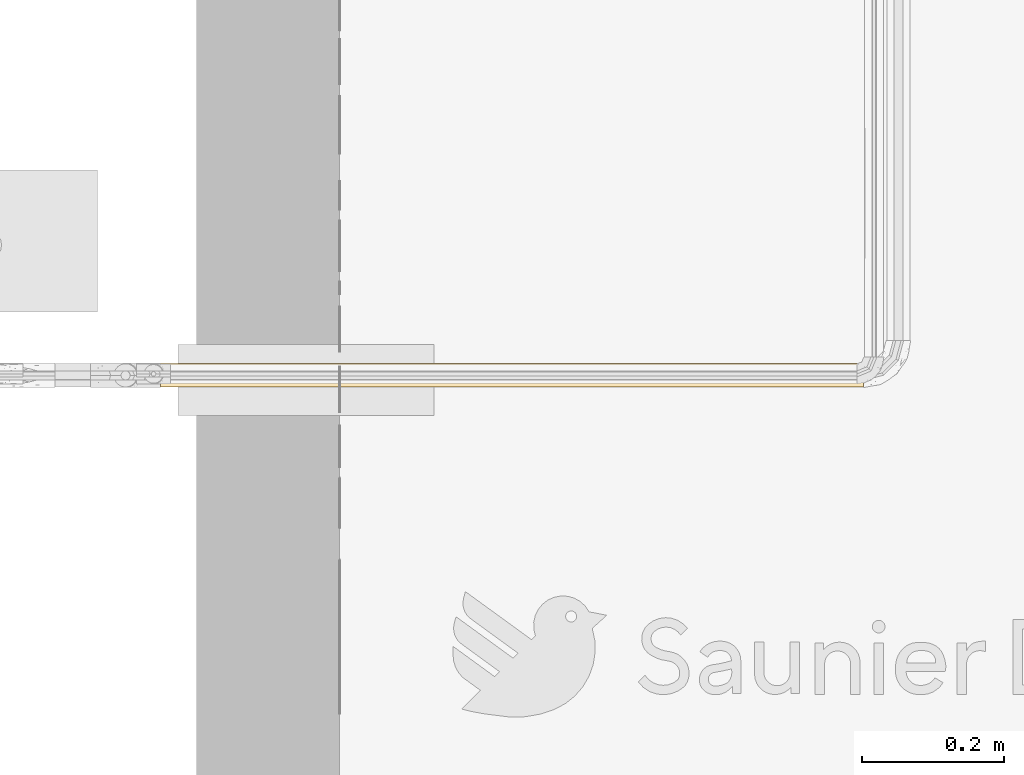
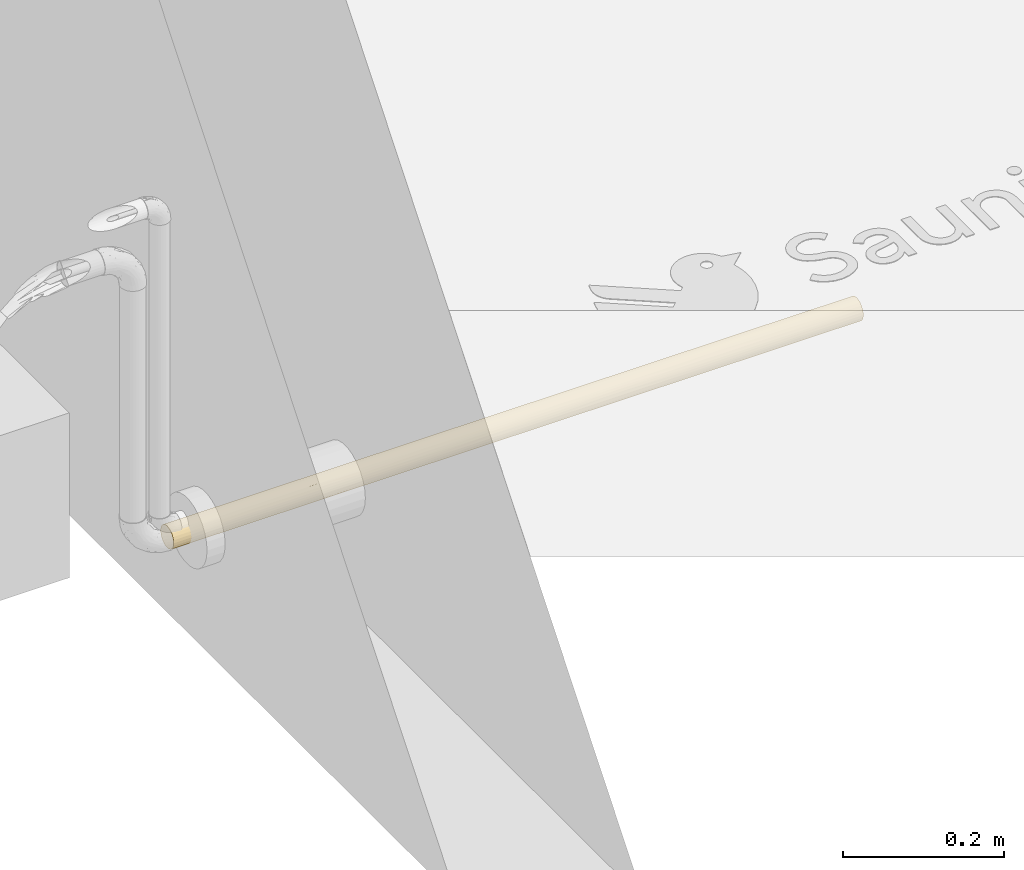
# One storey, part 7 of 30: 1 covering.
"""IFC2X3 building model written with IfcOpenShell, lengths in metres."""

from ifc_helpers import new_model, entity, si_unit, converted_unit, derived_unit, direction, frame, origin, place, context, subcontext, project, spatial, faceted_brep, material, type_object, element, save


model = new_model("IFC2X3")

# Units and contexts
model_context = context("Model", 3, precision=1e-05, world=origin(), true_north=direction((6.123031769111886e-17, 1.0)))
body_context = subcontext(model_context, "Body", "Model", "MODEL_VIEW")
ifc_project = project(units=[si_unit("LENGTHUNIT", "METRE"), si_unit("AREAUNIT", "SQUARE_METRE"), si_unit("VOLUMEUNIT", "CUBIC_METRE"), converted_unit("PLANEANGLEUNIT", "DEGREE", entity("IfcPlaneAngleMeasure", 0.017453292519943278), si_unit("PLANEANGLEUNIT", "RADIAN"), dimensions=[0, 0, 0, 0, 0, 0, 0]), si_unit("MASSUNIT", "GRAM", prefix="KILO"), derived_unit("MASSDENSITYUNIT", [(si_unit("MASSUNIT", "GRAM", prefix="KILO"), 1), (si_unit("LENGTHUNIT", "METRE"), -3)]), derived_unit("IONCONCENTRATIONUNIT", [(si_unit("MASSUNIT", "GRAM", prefix="KILO"), 1), (si_unit("LENGTHUNIT", "METRE"), -3)]), derived_unit("MOMENTOFINERTIAUNIT", [(si_unit("LENGTHUNIT", "METRE"), 4)]), si_unit("TIMEUNIT", "SECOND"), si_unit("FREQUENCYUNIT", "HERTZ"), si_unit("THERMODYNAMICTEMPERATUREUNIT", "DEGREE_CELSIUS"), derived_unit("THERMALTRANSMITTANCEUNIT", [(si_unit("MASSUNIT", "GRAM", prefix="KILO"), 1), (si_unit("THERMODYNAMICTEMPERATUREUNIT", "KELVIN"), -1), (si_unit("TIMEUNIT", "SECOND"), -3)]), derived_unit("THERMALCONDUCTANCEUNIT", [(si_unit("MASSUNIT", "GRAM", prefix="KILO"), 1), (si_unit("THERMODYNAMICTEMPERATUREUNIT", "KELVIN"), -1), (si_unit("TIMEUNIT", "SECOND"), -3), (si_unit("LENGTHUNIT", "METRE"), 1)]), derived_unit("VOLUMETRICFLOWRATEUNIT", [(si_unit("LENGTHUNIT", "METRE", prefix="DECI"), 3), (si_unit("TIMEUNIT", "SECOND"), -1)]), derived_unit("MASSFLOWRATEUNIT", [(si_unit("MASSUNIT", "GRAM", prefix="KILO"), 1), (si_unit("TIMEUNIT", "SECOND"), -1)]), derived_unit("ROTATIONALFREQUENCYUNIT", [(si_unit("TIMEUNIT", "SECOND"), -1)]), si_unit("ELECTRICCURRENTUNIT", "AMPERE"), si_unit("ELECTRICVOLTAGEUNIT", "VOLT"), si_unit("POWERUNIT", "WATT"), si_unit("FORCEUNIT", "NEWTON", prefix="KILO"), si_unit("ILLUMINANCEUNIT", "LUX"), si_unit("LUMINOUSFLUXUNIT", "LUMEN"), si_unit("LUMINOUSINTENSITYUNIT", "CANDELA"), si_unit("ENERGYUNIT", "JOULE"), derived_unit("USERDEFINED", [(si_unit("MASSUNIT", "GRAM", prefix="KILO"), -1), (si_unit("LENGTHUNIT", "METRE"), -2), (si_unit("TIMEUNIT", "SECOND"), 3), (si_unit("LUMINOUSFLUXUNIT", "LUMEN"), 1)]), derived_unit("USERDEFINED", [(si_unit("MASSUNIT", "GRAM", prefix="KILO"), 1), (si_unit("TIMEUNIT", "SECOND"), -3), (si_unit("LENGTHUNIT", "METRE"), 3), (si_unit("ELECTRICCURRENTUNIT", "AMPERE"), -2)]), derived_unit("SOUNDPOWERUNIT", [(si_unit("MASSUNIT", "GRAM", prefix="KILO"), 1), (si_unit("TIMEUNIT", "SECOND"), -3), (si_unit("LENGTHUNIT", "METRE"), 2)]), derived_unit("SOUNDPRESSUREUNIT", [(si_unit("MASSUNIT", "GRAM", prefix="KILO"), 1), (si_unit("LENGTHUNIT", "METRE"), -1), (si_unit("TIMEUNIT", "SECOND"), -2)]), derived_unit("LINEARVELOCITYUNIT", [(si_unit("LENGTHUNIT", "METRE"), 1), (si_unit("TIMEUNIT", "SECOND"), -1)]), si_unit("PRESSUREUNIT", "PASCAL"), derived_unit("USERDEFINED", [(si_unit("MASSUNIT", "GRAM", prefix="KILO"), 1), (si_unit("LENGTHUNIT", "METRE"), -2), (si_unit("TIMEUNIT", "SECOND"), -2)]), derived_unit("LINEARFORCEUNIT", [(si_unit("MASSUNIT", "GRAM", prefix="KILO"), 1), (si_unit("TIMEUNIT", "SECOND"), -2)]), derived_unit("PLANARFORCEUNIT", [(si_unit("MASSUNIT", "GRAM", prefix="KILO"), 1), (si_unit("LENGTHUNIT", "METRE"), -1), (si_unit("TIMEUNIT", "SECOND"), -2)]), derived_unit("SPECIFICHEATCAPACITYUNIT", [(si_unit("THERMODYNAMICTEMPERATUREUNIT", "KELVIN"), -1), (si_unit("LENGTHUNIT", "METRE"), 2), (si_unit("TIMEUNIT", "SECOND"), -2)]), derived_unit("HEATFLUXDENSITYUNIT", [(si_unit("MASSUNIT", "GRAM", prefix="KILO"), 1), (si_unit("TIMEUNIT", "SECOND"), -3)]), derived_unit("HEATINGVALUEUNIT", [(si_unit("LENGTHUNIT", "METRE"), 2), (si_unit("TIMEUNIT", "SECOND"), -2)]), derived_unit("VAPORPERMEABILITYUNIT", [(si_unit("LENGTHUNIT", "METRE"), -1), (si_unit("TIMEUNIT", "SECOND"), 1)]), derived_unit("DYNAMICVISCOSITYUNIT", [(si_unit("MASSUNIT", "GRAM", prefix="KILO"), 1), (si_unit("TIMEUNIT", "SECOND"), -1), (si_unit("LENGTHUNIT", "METRE"), -1)]), derived_unit("THERMALEXPANSIONCOEFFICIENTUNIT", [(si_unit("THERMODYNAMICTEMPERATUREUNIT", "KELVIN"), -1)]), derived_unit("MODULUSOFELASTICITYUNIT", [(si_unit("MASSUNIT", "GRAM", prefix="KILO"), 1), (si_unit("LENGTHUNIT", "METRE"), -1), (si_unit("TIMEUNIT", "SECOND"), -2)]), derived_unit("ISOTHERMALMOISTURECAPACITYUNIT", [(si_unit("MASSUNIT", "GRAM", prefix="KILO"), -1), (si_unit("LENGTHUNIT", "METRE"), 3)]), derived_unit("MOISTUREDIFFUSIVITYUNIT", [(si_unit("TIMEUNIT", "SECOND"), -1), (si_unit("LENGTHUNIT", "METRE"), 2)]), derived_unit("MASSPERLENGTHUNIT", [(si_unit("MASSUNIT", "GRAM", prefix="KILO"), 1), (si_unit("LENGTHUNIT", "METRE"), -1)]), derived_unit("THERMALRESISTANCEUNIT", [(si_unit("MASSUNIT", "GRAM", prefix="KILO"), -1), (si_unit("TIMEUNIT", "SECOND"), 3), (si_unit("THERMODYNAMICTEMPERATUREUNIT", "KELVIN"), 1)]), derived_unit("ACCELERATIONUNIT", [(si_unit("LENGTHUNIT", "METRE"), 1), (si_unit("TIMEUNIT", "SECOND"), -2)]), derived_unit("ANGULARVELOCITYUNIT", [(si_unit("TIMEUNIT", "SECOND"), -1), (si_unit("PLANEANGLEUNIT", "RADIAN"), 1)]), derived_unit("LINEARSTIFFNESSUNIT", [(si_unit("MASSUNIT", "GRAM", prefix="KILO"), 1), (si_unit("TIMEUNIT", "SECOND"), -2)]), derived_unit("WARPINGCONSTANTUNIT", [(si_unit("LENGTHUNIT", "METRE"), 6)]), derived_unit("LINEARMOMENTUNIT", [(si_unit("MASSUNIT", "GRAM", prefix="KILO"), 1), (si_unit("LENGTHUNIT", "METRE"), 1), (si_unit("TIMEUNIT", "SECOND"), -2)]), derived_unit("TORQUEUNIT", [(si_unit("MASSUNIT", "GRAM", prefix="KILO"), 1), (si_unit("LENGTHUNIT", "METRE"), 2), (si_unit("TIMEUNIT", "SECOND"), -2)])], contexts=[model_context])

# Site, building, storey
site_placement = place(None, origin())
site = spatial("IfcSite", under=ifc_project, at=site_placement, Name="Default", CompositionType="ELEMENT")
building_placement = place(site_placement, origin())
building = spatial("IfcBuilding", under=site, at=building_placement, CompositionType="ELEMENT")
storey_placement = place(building_placement, origin())
storey = spatial("IfcBuildingStorey", under=building, at=storey_placement, Name="Niveau 0", CompositionType="ELEMENT", Elevation=-1.949160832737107e-14)

# Covering
ifc_material = material(Name="Matériau du rendu 255-255-255")
covering_type = type_object("IfcCoveringType", Name="Isolation des canalisations:Par défaut", PredefinedType="INSULATION")
covering_placement = place(storey_placement, frame((-20.867036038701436, 1.3571078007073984, -0.4329452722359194)))
element("IfcCovering", 1, at=covering_placement, inside=storey, type_object=covering_type, material=ifc_material, Name="Isolation des canalisations:Par défaut", ObjectType="Isolation des canalisations:Par défaut", PredefinedType="INSULATION", context=body_context, shape_type="Brep", body=[
    faceted_brep([(0.0, 0.006384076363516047, 0.006384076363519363), (0.0, 0.0037857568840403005, 0.009770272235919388), (0.0, 0.00215238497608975, 0.013713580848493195), (0.0, 0.0015952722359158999, 0.01794527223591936), (0.0, 0.00215238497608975, 0.022176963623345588), (0.0, 0.0037857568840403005, 0.026120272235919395), (0.0, 0.006384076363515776, 0.02950646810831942), (0.0, 0.009770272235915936, 0.03210478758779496), (0.0, 0.013713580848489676, 0.03373815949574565), (0.0, 0.017945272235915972, 0.03429527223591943), (0.0, 0.02217696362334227, 0.03373815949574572), (0.0, 0.02612027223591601, 0.03210478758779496), (0.0, 0.02950646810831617, 0.029506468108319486), (0.0, 0.032104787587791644, 0.026120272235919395), (0.0, 0.033738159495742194, 0.022176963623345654), (0.0, 0.034295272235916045, 0.017945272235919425), (0.0, 0.033738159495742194, 0.013713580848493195), (0.0, 0.032104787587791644, 0.009770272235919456), (0.0, 0.02950646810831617, 0.006384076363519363), (0.0, 0.02612027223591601, 0.0037857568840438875), (0.0, 0.02217696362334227, 0.002152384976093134), (0.0, 0.017945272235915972, 0.0015952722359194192), (0.0, 0.013713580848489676, 0.002152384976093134), (0.0, 0.009770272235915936, 0.00378575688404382), (0.9889466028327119, 0.0021523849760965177, 0.013713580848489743), (0.9889466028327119, 0.0037857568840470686, 0.009770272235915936), (0.9889466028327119, 0.006384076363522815, 0.006384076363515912), (0.9889466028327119, 0.009770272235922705, 0.003785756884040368), (0.9889466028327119, 0.013713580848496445, 0.0021523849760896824), (0.9889466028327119, 0.01794527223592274, 0.0015952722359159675), (0.9889466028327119, 0.022176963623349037, 0.0021523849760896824), (0.9889466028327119, 0.026120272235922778, 0.003785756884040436), (0.9889466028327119, 0.02950646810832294, 0.006384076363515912), (0.9889466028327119, 0.03210478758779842, 0.009770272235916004), (0.9889466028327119, 0.033738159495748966, 0.013713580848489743), (0.9889466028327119, 0.03429527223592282, 0.017945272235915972), (0.9889466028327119, 0.033738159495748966, 0.0221769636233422), (0.9889466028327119, 0.03210478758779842, 0.026120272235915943), (0.9889466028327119, 0.02950646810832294, 0.029506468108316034), (0.9889466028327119, 0.026120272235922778, 0.03210478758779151), (0.9889466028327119, 0.022176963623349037, 0.03373815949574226), (0.9889466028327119, 0.01794527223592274, 0.034295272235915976), (0.9889466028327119, 0.013713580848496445, 0.033738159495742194), (0.9889466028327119, 0.009770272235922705, 0.03210478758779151), (0.9889466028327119, 0.0063840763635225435, 0.02950646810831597), (0.9889466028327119, 0.0037857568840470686, 0.026120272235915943), (0.9889466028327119, 0.0021523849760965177, 0.022176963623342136), (0.9889466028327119, 0.0015952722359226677, 0.017945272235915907), (0.8999311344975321, 0.02789852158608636, 0.004973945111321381), (0.2437285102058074, 0.0339649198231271, 0.014675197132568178), (0.19507049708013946, 0.03305070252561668, 0.011688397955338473), (0.14142797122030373, 0.03392628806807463, 0.014491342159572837), (0.4455172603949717, 0.031038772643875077, 0.0081532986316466), (0.45384378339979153, 0.032820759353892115, 0.011159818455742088), (0.5447857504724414, 0.03210011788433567, 0.009762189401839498), (0.8621619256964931, 0.030916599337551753, 0.007992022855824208), (0.7938761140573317, 0.03305070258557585, 0.011688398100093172), (0.9011611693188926, 0.033050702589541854, 0.011688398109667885), (0.08778543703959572, 0.03305070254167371, 0.0116883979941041), (0.1267846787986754, 0.030916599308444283, 0.00799202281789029), (0.8475186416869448, 0.03392628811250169, 0.014491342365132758), (0.8477590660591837, 0.034295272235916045, 0.017945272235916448), (0.7452181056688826, 0.03396491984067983, 0.014675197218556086), (0.8613744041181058, 0.024202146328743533, 0.00283984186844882), (0.7085693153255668, 0.02688547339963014, 0.004256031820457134), (0.7124536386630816, 0.024112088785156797, 0.002802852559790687), (0.6197790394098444, 0.027380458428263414, 0.004592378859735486), (0.2823750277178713, 0.017945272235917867, 0.0015952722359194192), (0.1411875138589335, 0.017945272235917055, 0.0015952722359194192), (0.23425505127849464, 0.02121618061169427, 0.0019257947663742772), (0.6706536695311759, 0.03293811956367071, 0.011423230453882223), (0.738802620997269, 0.031370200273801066, 0.0086128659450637), (0.6257471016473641, 0.03091659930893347, 0.007992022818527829), (0.12792233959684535, 0.02134640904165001, 0.0019529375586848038), (0.4615910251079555, 0.021689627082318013, 0.002029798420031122), (0.42419645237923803, 0.01794527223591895, 0.0015952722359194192), (0.3532857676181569, 0.022992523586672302, 0.002393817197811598), (0.10839542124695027, 0.027898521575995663, 0.004973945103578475), (0.07814624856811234, 0.024202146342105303, 0.0028398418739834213), (0.14118753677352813, 0.034295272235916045, 0.01794527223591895), (0.2652029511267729, 0.030999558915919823, 0.008101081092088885), (0.3197031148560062, 0.027898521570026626, 0.004973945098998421), (0.21404926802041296, 0.02728840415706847, 0.004527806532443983), (0.5653839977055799, 0.023347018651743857, 0.0025133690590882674), (0.6819890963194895, 0.021117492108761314, 0.0019059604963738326), (0.5653840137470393, 0.017945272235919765, 0.0015952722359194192), (0.4235625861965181, 0.01794527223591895, 0.0015952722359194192), (0.7771653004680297, 0.021012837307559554, 0.0018856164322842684), (0.3532857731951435, 0.033510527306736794, 0.012940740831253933), (0.28237507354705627, 0.034295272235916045, 0.017945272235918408), (0.42419645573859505, 0.034295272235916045, 0.017945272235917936), (0.2681438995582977, 0.02400763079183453, 0.002760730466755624), (0.7916373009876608, 0.027898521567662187, 0.004973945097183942), (0.17769843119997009, 0.0242021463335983, 0.0028398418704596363), (0.8477590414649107, 0.01794527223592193, 0.0015952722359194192), (0.8714265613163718, 0.021092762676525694, 0.001901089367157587), (0.534359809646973, 0.03010937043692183, 0.007020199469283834), (0.4682992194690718, 0.026977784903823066, 0.004316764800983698), (0.43095643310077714, 0.02447872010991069, 0.0029573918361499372), (0.7183759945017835, 0.029360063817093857, 0.006239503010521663), (0.4454753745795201, 0.03392302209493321, 0.014476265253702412), (0.3557513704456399, 0.030197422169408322, 0.007119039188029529), (0.7065715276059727, 0.017945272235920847, 0.0015952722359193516), (0.6359777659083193, 0.03403572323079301, 0.015043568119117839), (0.7065715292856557, 0.034295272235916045, 0.01794527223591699), (0.34227358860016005, 0.0321526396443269, 0.009853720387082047), (0.5653839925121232, 0.034295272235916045, 0.01794527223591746), (0.5381544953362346, 0.03352109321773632, 0.012973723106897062), (0.5647501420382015, 0.017945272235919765, 0.0015952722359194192), (0.7452181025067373, 0.014675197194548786, 0.0019256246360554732), (0.862161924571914, 0.007992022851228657, 0.004973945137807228), (0.1973093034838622, 0.004973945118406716, 0.007992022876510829), (0.12678467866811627, 0.007992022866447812, 0.004973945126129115), (0.2501439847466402, 0.008612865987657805, 0.004520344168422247), (0.8475186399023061, 0.014491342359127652, 0.0019642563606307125), (0.9011611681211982, 0.011688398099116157, 0.00283984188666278), (0.9102306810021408, 0.0028398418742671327, 0.011688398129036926), (0.14142796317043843, 0.014491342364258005, 0.0019642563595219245), (0.19507049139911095, 0.011688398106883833, 0.0028398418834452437), (0.08778543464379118, 0.011688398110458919, 0.002839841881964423), (0.2405094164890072, 0.002368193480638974, 0.012977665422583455), (0.1591977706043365, 0.0019219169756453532, 0.01469341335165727), (0.1275721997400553, 0.002839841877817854, 0.011688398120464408), (0.6356608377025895, 0.01294074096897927, 0.0023800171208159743), (0.5347257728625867, 0.011184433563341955, 0.003058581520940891), (0.63442910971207, 0.009653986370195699, 0.0038535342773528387), (0.5434419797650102, 0.008196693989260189, 0.004819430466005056), (0.5434712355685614, 0.014476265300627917, 0.001967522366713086), (0.08901546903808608, 0.00497394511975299, 0.007992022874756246), (0.7737530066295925, 0.004546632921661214, 0.00857516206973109), (0.723260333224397, 0.008093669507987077, 0.004896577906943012), (0.36319950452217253, 0.00799202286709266, 0.004973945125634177), (0.4514294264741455, 0.009416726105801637, 0.00399584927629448), (0.46662813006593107, 0.00697428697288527, 0.005822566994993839), (0.8805511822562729, 0.004973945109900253, 0.007992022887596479), (0.8477589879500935, 0.0015952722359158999, 0.01794527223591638), (0.8966064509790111, 0.0018704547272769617, 0.014958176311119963), (0.7938761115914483, 0.011688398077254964, 0.002839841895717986), (0.24372850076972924, 0.014675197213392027, 0.0019256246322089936), (0.43106167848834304, 0.0020302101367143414, 0.014199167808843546), (0.42419657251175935, 0.0015952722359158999, 0.017945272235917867), (0.32347731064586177, 0.001896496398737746, 0.014821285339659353), (0.28237522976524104, 0.0015952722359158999, 0.017945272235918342), (0.14118761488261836, 0.0015952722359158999, 0.017945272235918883), (0.8102306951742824, 0.002839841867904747, 0.011688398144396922), (0.7965881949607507, 0.0018664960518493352, 0.01497955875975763), (0.6805591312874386, 0.0024431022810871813, 0.012748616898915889), (0.2898753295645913, 0.006070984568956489, 0.006705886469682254), (0.3653129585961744, 0.0048410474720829, 0.0081676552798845), (0.3532857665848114, 0.0028459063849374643, 0.01167377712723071), (0.2833757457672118, 0.00397109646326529, 0.00945734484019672), (0.3182929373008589, 0.011423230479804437, 0.002952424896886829), (0.4507921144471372, 0.012973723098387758, 0.002369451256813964), (0.3529688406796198, 0.015043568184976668, 0.0018548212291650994), (0.6669548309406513, 0.004973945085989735, 0.007992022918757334), (0.5468479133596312, 0.002451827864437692, 0.012722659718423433), (0.5653841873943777, 0.0015952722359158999, 0.017945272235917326), (0.627460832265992, 0.00700645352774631, 0.005793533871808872), (0.4500616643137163, 0.0031333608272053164, 0.011022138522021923), (0.5627017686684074, 0.005071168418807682, 0.007866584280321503), (0.45868620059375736, 0.004893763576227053, 0.008097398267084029), (0.423562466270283, 0.0015952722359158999, 0.017945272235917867), (0.7065715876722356, 0.0015952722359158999, 0.01794527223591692), (0.5647501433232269, 0.0015952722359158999, 0.017945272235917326), (0.7452181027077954, 0.001925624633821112, 0.02121534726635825), (0.24372849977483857, 0.0019256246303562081, 0.021215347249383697), (0.8621619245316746, 0.004973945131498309, 0.02789852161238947), (0.19730930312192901, 0.007992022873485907, 0.030916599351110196), (0.12678467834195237, 0.004973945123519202, 0.0278985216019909), (0.2501439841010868, 0.00452034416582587, 0.02727767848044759), (0.8475186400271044, 0.001964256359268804, 0.021399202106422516), (0.9011611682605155, 0.002839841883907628, 0.024202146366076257), (0.9102306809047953, 0.011688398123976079, 0.033050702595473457), (0.14142796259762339, 0.001964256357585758, 0.021399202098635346), (0.19507049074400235, 0.002839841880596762, 0.02420214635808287), (0.08778543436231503, 0.0028398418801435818, 0.02420214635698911), (0.7938761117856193, 0.0028398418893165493, 0.024202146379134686), (0.24050941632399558, 0.012977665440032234, 0.03352235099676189), (0.15919777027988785, 0.014693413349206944, 0.03396862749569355), (0.1275721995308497, 0.01168839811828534, 0.03305070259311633), (0.635660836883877, 0.002380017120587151, 0.022949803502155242), (0.7232603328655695, 0.004896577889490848, 0.02779687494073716), (0.6669548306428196, 0.007992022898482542, 0.030916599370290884), (0.627460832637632, 0.005793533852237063, 0.028884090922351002), (0.54347123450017, 0.001967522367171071, 0.021414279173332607), (0.08901546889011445, 0.007992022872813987, 0.030916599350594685), (0.7737530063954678, 0.008575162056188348, 0.031343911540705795), (0.36319950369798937, 0.0049739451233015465, 0.027898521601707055), (0.4514294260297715, 0.003995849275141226, 0.026473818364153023), (0.4666281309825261, 0.005822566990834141, 0.02891625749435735), (0.880551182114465, 0.007992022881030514, 0.030916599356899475), (0.8477590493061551, 0.01794527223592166, 0.03429527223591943), (0.8966064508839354, 0.014958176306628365, 0.034020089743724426), (0.4310616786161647, 0.014199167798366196, 0.03386033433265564), (0.42419638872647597, 0.01794527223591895, 0.03429527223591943), (0.32347731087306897, 0.014821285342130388, 0.03399404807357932), (0.28237510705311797, 0.017945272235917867, 0.03429527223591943), (0.14118755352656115, 0.017945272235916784, 0.03429527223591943), (0.810230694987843, 0.011688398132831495, 0.03305070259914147), (0.7965881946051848, 0.014979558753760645, 0.03402404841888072), (0.6805591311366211, 0.01274861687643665, 0.033447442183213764), (0.28987532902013, 0.006705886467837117, 0.029819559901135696), (0.3653129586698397, 0.00816765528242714, 0.03104949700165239), (0.35328576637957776, 0.011673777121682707, 0.03304463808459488), (0.28337574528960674, 0.009457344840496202, 0.031919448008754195), (0.31829293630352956, 0.002952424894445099, 0.024467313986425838), (0.5347257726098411, 0.003058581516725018, 0.02470611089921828), (0.4507921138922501, 0.002369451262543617, 0.022916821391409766), (0.352968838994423, 0.0018548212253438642, 0.020846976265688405), (0.5468479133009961, 0.012722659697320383, 0.03343871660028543), (0.5653839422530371, 0.017945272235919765, 0.03429527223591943), (0.6344291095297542, 0.003853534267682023, 0.026236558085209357), (0.5434419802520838, 0.004819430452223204, 0.02769385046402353), (0.4500616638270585, 0.011022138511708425, 0.032757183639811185), (0.5627017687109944, 0.007866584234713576, 0.030819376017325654), (0.45868620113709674, 0.008097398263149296, 0.030996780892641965), (0.4235626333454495, 0.01794527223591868, 0.03429527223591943), (0.7065714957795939, 0.017945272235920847, 0.03429527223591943), (0.5647503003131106, 0.017945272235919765, 0.03429527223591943), (0.745218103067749, 0.02121534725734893, 0.033964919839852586), (0.8621619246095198, 0.027898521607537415, 0.03091659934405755), (0.1973093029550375, 0.030916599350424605, 0.02789852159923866), (0.1267846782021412, 0.027898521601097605, 0.03091659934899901), (0.25014398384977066, 0.027277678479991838, 0.03137020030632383), (0.8475186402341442, 0.02139920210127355, 0.03392628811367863), (0.901161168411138, 0.02420214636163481, 0.03305070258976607), (0.9102306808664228, 0.033050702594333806, 0.02420214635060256), (0.14142796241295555, 0.021399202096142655, 0.033926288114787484), (0.19507049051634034, 0.024202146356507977, 0.03305070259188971), (0.08778543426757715, 0.024202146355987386, 0.03305070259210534), (0.24050941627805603, 0.03352235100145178, 0.022912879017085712), (0.1591977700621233, 0.03396862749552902, 0.02119713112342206), (0.12757219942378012, 0.033050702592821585, 0.024202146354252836), (0.6356608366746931, 0.022949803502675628, 0.033510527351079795), (0.7232603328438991, 0.027796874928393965, 0.03099396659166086), (0.6669548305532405, 0.030916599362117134, 0.027898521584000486), (0.6274608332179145, 0.02888409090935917, 0.030097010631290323), (0.5434712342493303, 0.021414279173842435, 0.033923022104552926), (0.08901546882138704, 0.03091659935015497, 0.02789852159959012), (0.773753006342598, 0.031343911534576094, 0.027315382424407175), (0.363199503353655, 0.027898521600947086, 0.030916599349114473), (0.4514294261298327, 0.026473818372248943, 0.03189469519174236), (0.46662813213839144, 0.028916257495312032, 0.03006797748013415), (0.8805511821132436, 0.030916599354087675, 0.027898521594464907), (0.8966064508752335, 0.03402008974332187, 0.020932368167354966), (0.7938761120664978, 0.024202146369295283, 0.033050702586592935), (0.24372849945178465, 0.021215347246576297, 0.03396491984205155), (0.43106167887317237, 0.033860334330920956, 0.021691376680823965), (0.3234773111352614, 0.03399404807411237, 0.021069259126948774), (0.8102306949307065, 0.03305070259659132, 0.024202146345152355), (0.7965881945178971, 0.03402404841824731, 0.020910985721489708), (0.6805591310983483, 0.0334474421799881, 0.023141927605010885), (0.2898753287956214, 0.029819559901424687, 0.02918465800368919), (0.36531295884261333, 0.03104949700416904, 0.027722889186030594), (0.3532857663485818, 0.03304463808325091, 0.02421676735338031), (0.28337574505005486, 0.03191944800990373, 0.0264331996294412), (0.3182929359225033, 0.02446731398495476, 0.032938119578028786), (0.5347257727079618, 0.02470611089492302, 0.0328319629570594), (0.4507921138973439, 0.022916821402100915, 0.03352109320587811), (0.3529688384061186, 0.020846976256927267, 0.034035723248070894), (0.5468479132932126, 0.03343871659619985, 0.023167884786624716), (0.6344291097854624, 0.026236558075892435, 0.032037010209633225), (0.5434419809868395, 0.027693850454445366, 0.031071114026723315), (0.4500616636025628, 0.032757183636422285, 0.024868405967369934), (0.5627017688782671, 0.030819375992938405, 0.028023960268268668), (0.4586862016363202, 0.03099678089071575, 0.027793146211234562)], [[[0, 1, 2, 3, 4, 5, 6, 7, 8, 9, 10, 11, 12, 13, 14, 15, 16, 17, 18, 19, 20, 21, 22, 23]], [[24, 25, 26, 27, 28, 29, 30, 31, 32, 33, 34, 35, 36, 37, 38, 39, 40, 41, 42, 43, 44, 45, 46, 47]], [[48, 32, 31]], [[49, 50, 51]], [[52, 53, 54]], [[55, 56, 57]], [[58, 59, 17]], [[57, 60, 34]], [[61, 60, 62]], [[58, 17, 16]], [[31, 30, 63]], [[64, 65, 66]], [[67, 68, 69]], [[70, 71, 72]], [[68, 73, 69]], [[74, 75, 76]], [[18, 77, 19]], [[78, 20, 19]], [[15, 79, 51]], [[80, 81, 82]], [[83, 84, 85]], [[57, 34, 33]], [[51, 50, 58]], [[76, 75, 86, 67]], [[33, 32, 55]], [[84, 65, 87]], [[56, 70, 62]], [[59, 77, 18]], [[88, 89, 90]], [[17, 59, 18]], [[69, 91, 76]], [[78, 73, 20]], [[92, 48, 63]], [[78, 77, 93]], [[29, 94, 95]], [[52, 54, 96]], [[81, 97, 98]], [[63, 65, 92]], [[48, 55, 32]], [[34, 60, 35]], [[99, 92, 64]], [[100, 88, 90]], [[79, 49, 51]], [[101, 81, 80]], [[80, 59, 50]], [[77, 82, 93]], [[94, 87, 95]], [[87, 94, 102]], [[103, 104, 62]], [[104, 61, 62]], [[95, 87, 63]], [[20, 73, 21]], [[66, 65, 83]], [[59, 80, 82]], [[88, 105, 50]], [[97, 96, 66]], [[105, 53, 52]], [[88, 100, 53]], [[66, 83, 97]], [[55, 99, 71]], [[83, 74, 98]], [[97, 81, 101]], [[63, 48, 31]], [[55, 48, 92]], [[55, 57, 33]], [[60, 57, 56]], [[60, 56, 62]], [[60, 61, 35]], [[56, 71, 70]], [[106, 104, 103]], [[54, 70, 72]], [[100, 106, 107]], [[103, 107, 106]], [[62, 70, 103]], [[107, 103, 70]], [[56, 55, 71]], [[99, 55, 92]], [[16, 15, 51]], [[59, 58, 50]], [[16, 51, 58]], [[49, 79, 89]], [[89, 88, 49]], [[88, 50, 49]], [[77, 78, 19]], [[73, 78, 93]], [[73, 93, 69]], [[73, 68, 21]], [[91, 69, 93]], [[76, 67, 69]], [[82, 91, 93]], [[81, 76, 91]], [[84, 87, 102]], [[63, 87, 65]], [[74, 85, 108, 75]], [[83, 65, 84]], [[84, 102, 85]], [[63, 30, 95]], [[29, 95, 30]], [[98, 74, 76]], [[85, 74, 83]], [[106, 100, 90]], [[53, 100, 107]], [[54, 53, 107]], [[52, 101, 105]], [[70, 54, 107]], [[54, 72, 96]], [[66, 96, 72]], [[97, 52, 96]], [[82, 77, 59]], [[91, 82, 81]], [[105, 101, 80]], [[97, 101, 52]], [[50, 105, 80]], [[53, 105, 88]], [[66, 72, 99]], [[92, 65, 64]], [[66, 99, 64]], [[72, 71, 99]], [[81, 98, 76]], [[83, 98, 97]], [[102, 94, 109]], [[110, 27, 26]], [[111, 112, 113]], [[94, 114, 109]], [[115, 28, 27]], [[115, 114, 28]], [[24, 116, 25]], [[117, 118, 119]], [[119, 23, 22]], [[120, 121, 122]], [[123, 108, 85, 102]], [[124, 125, 126]], [[23, 119, 112]], [[23, 112, 0]], [[123, 127, 108]], [[1, 0, 128]], [[68, 117, 21]], [[114, 94, 29]], [[110, 129, 130]], [[131, 132, 133]], [[26, 134, 110]], [[122, 2, 1]], [[135, 136, 47]], [[110, 137, 115]], [[118, 117, 138]], [[139, 140, 141]], [[111, 120, 122]], [[120, 141, 142]], [[143, 3, 2]], [[144, 116, 136]], [[144, 145, 146]], [[113, 147, 111]], [[148, 149, 150]], [[1, 128, 122]], [[113, 118, 151]], [[68, 138, 117]], [[128, 112, 111]], [[26, 25, 134]], [[28, 114, 29]], [[134, 129, 110]], [[130, 137, 110]], [[124, 152, 127]], [[111, 150, 120]], [[2, 122, 121]], [[151, 118, 138]], [[152, 151, 153]], [[116, 134, 25]], [[144, 136, 145]], [[129, 134, 144]], [[154, 129, 146]], [[155, 156, 139]], [[125, 157, 126]], [[137, 130, 125]], [[155, 158, 159]], [[132, 152, 124]], [[112, 128, 0]], [[122, 128, 111]], [[134, 116, 144]], [[159, 133, 126]], [[149, 158, 139]], [[22, 21, 117]], [[112, 119, 118]], [[22, 117, 119]], [[138, 68, 67]], [[67, 86, 153]], [[151, 131, 113]], [[138, 67, 153]], [[132, 151, 152]], [[127, 86, 75, 108]], [[152, 153, 86]], [[151, 138, 153]], [[113, 131, 147]], [[112, 118, 113]], [[131, 133, 148]], [[150, 111, 147]], [[148, 150, 147]], [[150, 149, 120]], [[141, 120, 149]], [[121, 142, 143]], [[131, 148, 147]], [[148, 160, 158]], [[110, 115, 27]], [[114, 115, 137]], [[114, 137, 109]], [[137, 123, 109]], [[123, 102, 109]], [[139, 141, 149]], [[141, 140, 161, 142]], [[149, 148, 158]], [[146, 156, 155]], [[159, 158, 160]], [[155, 139, 158]], [[136, 116, 24]], [[47, 136, 24]], [[136, 135, 145]], [[135, 162, 145]], [[137, 125, 123]], [[162, 146, 145]], [[154, 146, 155]], [[142, 121, 120]], [[2, 121, 143]], [[123, 125, 124]], [[86, 127, 152]], [[123, 124, 127]], [[132, 124, 126]], [[133, 132, 126]], [[132, 131, 151]], [[159, 126, 157]], [[133, 160, 148]], [[146, 129, 144]], [[130, 129, 154]], [[156, 146, 162]], [[139, 156, 163, 140]], [[157, 130, 154]], [[130, 157, 125]], [[159, 157, 154]], [[155, 159, 154]], [[133, 159, 160]], [[162, 135, 164]], [[165, 143, 142]], [[166, 45, 44]], [[167, 168, 169]], [[135, 170, 164]], [[171, 46, 45]], [[171, 170, 46]], [[42, 172, 43]], [[173, 174, 175]], [[170, 171, 176]], [[175, 5, 4]], [[177, 178, 179]], [[180, 163, 156, 162]], [[181, 182, 183]], [[5, 175, 168]], [[5, 168, 6]], [[180, 184, 163]], [[7, 6, 185]], [[143, 173, 3]], [[170, 135, 47]], [[166, 186, 181]], [[187, 188, 189]], [[44, 190, 166]], [[179, 8, 7]], [[191, 192, 41]], [[166, 176, 171]], [[168, 175, 174]], [[174, 173, 165]], [[193, 194, 195]], [[167, 177, 179]], [[177, 195, 196]], [[197, 9, 8]], [[198, 172, 192]], [[198, 199, 200]], [[169, 201, 167]], [[202, 203, 204]], [[7, 185, 179]], [[169, 174, 205]], [[143, 165, 173]], [[185, 168, 167]], [[44, 43, 190]], [[46, 170, 47]], [[190, 186, 166]], [[181, 176, 166]], [[206, 207, 184]], [[167, 204, 177]], [[8, 179, 178]], [[205, 174, 165]], [[207, 205, 208]], [[172, 190, 43]], [[198, 192, 199]], [[186, 190, 198]], [[182, 186, 200]], [[209, 210, 193]], [[211, 183, 212]], [[176, 181, 211]], [[209, 213, 214]], [[188, 207, 206]], [[168, 185, 6]], [[179, 185, 167]], [[190, 172, 198]], [[214, 189, 212]], [[203, 213, 193]], [[4, 3, 173]], [[4, 173, 175]], [[142, 161, 208]], [[205, 187, 169]], [[165, 142, 208]], [[188, 205, 207]], [[184, 161, 140, 163]], [[207, 208, 161]], [[205, 165, 208]], [[169, 187, 201]], [[168, 174, 169]], [[187, 189, 202]], [[204, 167, 201]], [[202, 204, 201]], [[204, 203, 177]], [[195, 177, 203]], [[178, 196, 197]], [[187, 202, 201]], [[202, 215, 213]], [[166, 171, 45]], [[170, 176, 164]], [[176, 180, 164]], [[180, 162, 164]], [[193, 195, 203]], [[195, 194, 216, 196]], [[203, 202, 213]], [[200, 210, 209]], [[214, 213, 215]], [[209, 193, 213]], [[192, 172, 42]], [[41, 192, 42]], [[192, 191, 199]], [[191, 217, 199]], [[206, 211, 212]], [[217, 200, 199]], [[182, 200, 209]], [[196, 178, 177]], [[8, 178, 197]], [[180, 211, 206]], [[161, 184, 207]], [[180, 206, 184]], [[188, 206, 212]], [[189, 188, 212]], [[188, 187, 205]], [[214, 212, 183]], [[189, 215, 202]], [[200, 186, 198]], [[181, 186, 182]], [[210, 200, 217]], [[193, 210, 218, 194]], [[176, 211, 180]], [[181, 183, 211]], [[214, 183, 182]], [[209, 214, 182]], [[189, 214, 215]], [[217, 191, 219]], [[220, 39, 38]], [[221, 222, 223]], [[191, 224, 219]], [[225, 40, 39]], [[225, 224, 40]], [[36, 226, 37]], [[227, 228, 229]], [[229, 11, 10]], [[230, 231, 232]], [[233, 218, 210, 217]], [[234, 235, 236]], [[11, 229, 222]], [[11, 222, 12]], [[233, 237, 218]], [[13, 12, 238]], [[197, 227, 9]], [[224, 191, 41]], [[220, 239, 234]], [[240, 241, 242]], [[38, 243, 220]], [[232, 14, 13]], [[61, 244, 35]], [[220, 245, 225]], [[228, 227, 246]], [[247, 90, 248]], [[221, 230, 232]], [[230, 248, 89]], [[79, 15, 14]], [[249, 226, 244]], [[249, 250, 251]], [[223, 252, 221]], [[253, 254, 255]], [[13, 238, 232]], [[223, 228, 256]], [[197, 246, 227]], [[238, 222, 221]], [[38, 37, 243]], [[40, 224, 41]], [[243, 239, 220]], [[234, 245, 220]], [[257, 258, 237]], [[221, 255, 230]], [[14, 232, 231]], [[256, 228, 246]], [[258, 256, 259]], [[226, 243, 37]], [[249, 244, 250]], [[239, 243, 249]], [[235, 239, 251]], [[260, 106, 247]], [[261, 236, 262]], [[245, 234, 261]], [[260, 263, 264]], [[241, 258, 257]], [[222, 238, 12]], [[232, 238, 221]], [[243, 226, 249]], [[264, 242, 262]], [[254, 263, 247]], [[10, 9, 227]], [[222, 229, 228]], [[10, 227, 229]], [[246, 197, 196]], [[196, 216, 259]], [[256, 240, 223]], [[246, 196, 259]], [[241, 256, 258]], [[237, 216, 194, 218]], [[258, 259, 216]], [[256, 246, 259]], [[223, 240, 252]], [[222, 228, 223]], [[240, 242, 253]], [[255, 221, 252]], [[253, 255, 252]], [[255, 254, 230]], [[248, 230, 254]], [[231, 89, 79]], [[240, 253, 252]], [[253, 265, 263]], [[220, 225, 39]], [[224, 225, 245]], [[224, 245, 219]], [[245, 233, 219]], [[233, 217, 219]], [[247, 248, 254]], [[90, 89, 248]], [[254, 253, 263]], [[251, 106, 260]], [[264, 263, 265]], [[260, 247, 263]], [[244, 226, 36]], [[35, 244, 36]], [[244, 61, 250]], [[61, 104, 250]], [[257, 261, 262]], [[104, 251, 250]], [[235, 251, 260]], [[89, 231, 230]], [[14, 231, 79]], [[233, 261, 257]], [[216, 237, 258]], [[233, 257, 237]], [[241, 257, 262]], [[242, 241, 262]], [[241, 240, 256]], [[264, 262, 236]], [[242, 265, 253]], [[251, 239, 249]], [[234, 239, 235]], [[106, 251, 104]], [[90, 247, 106]], [[245, 261, 233]], [[234, 236, 261]], [[264, 236, 235]], [[260, 264, 235]], [[242, 264, 265]]]),
])

save(model, "model.ifc")
